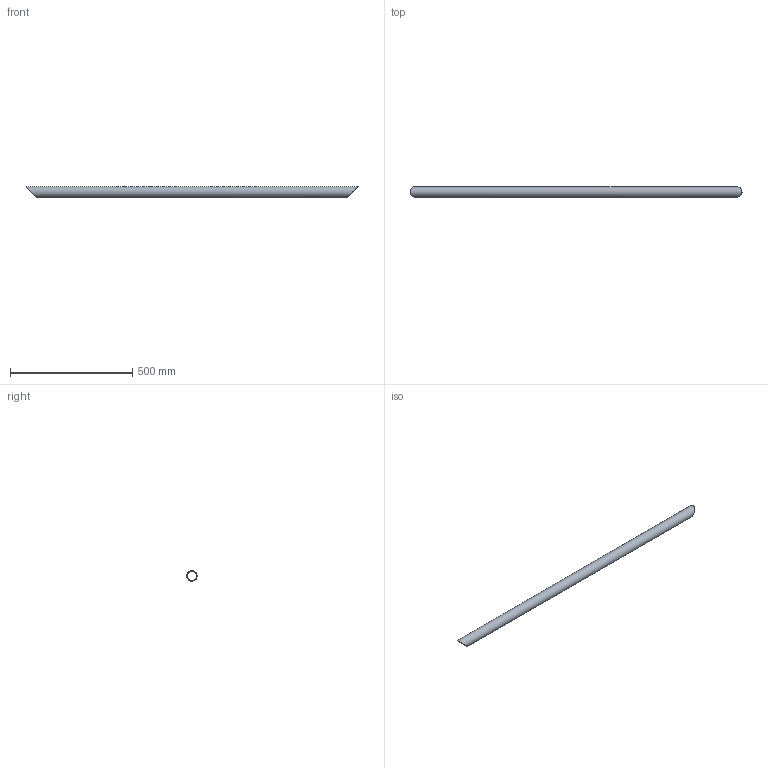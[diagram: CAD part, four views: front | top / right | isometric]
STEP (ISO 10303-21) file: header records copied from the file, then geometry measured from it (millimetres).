
FILE_DESCRIPTION(/* description */ (''),/* implementation_level */ '2;1');
FILE_NAME(/* name */ 'Pos113-Constructie buis 42.4x2.6-S235JRH-2st',/* time_stamp */ '2024-08-06T11:42:42+02:00',/* author */ (''),/* organization */ (''),/* preprocessor_version */ 'ST-DEVELOPER v16.5',/* originating_system */ 'HiCAD 2024 2901.2 Build 361',/* authorisation */ '');
FILE_SCHEMA (('AUTOMOTIVE_DESIGN { 1 0 10303 214 1 1 1 1 }'));
Length unit declared in the file: millimetre
Products named in the file (1): Pos113-Constructie buis 42.4x2.6-S235JRH-2st
Bounding box: 1358.38 x 42.36 x 42.39 mm (x, y, z)
Volume: 427821.3 mm3; surface area: 330012.8 mm2
Topology: 1 solids, 1 shells, 4 faces, 6 edges, 4 vertices
Faces by surface type: cylinder 2, plane 2
Full cylindrical faces by diameter (mm): 37.2 x1, 42.4 x1
Entity records: 146 total; most frequent: DIRECTION 16, CARTESIAN_POINT 12, PRESENTATION_STYLE_ASSIGNMENT 9, COLOUR_RGB 9, DRAUGHTING_PRE_DEFINED_CURVE_FONT 8, CURVE_STYLE 8, OVER_RIDING_STYLED_ITEM 8, ORIENTED_EDGE 8
